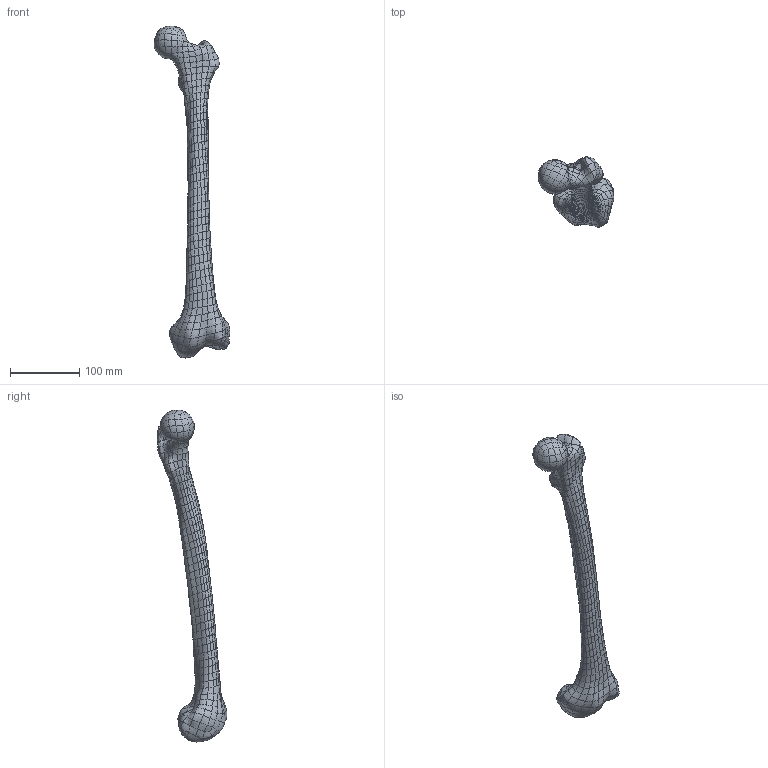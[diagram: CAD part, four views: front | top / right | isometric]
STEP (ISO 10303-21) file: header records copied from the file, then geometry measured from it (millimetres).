
FILE_DESCRIPTION(('Open CASCADE Model'),'2;1');
FILE_NAME('Open CASCADE Shape Model','2026-10-24T17:19:06',('Author'),( 'Open CASCADE'),'Open CASCADE STEP processor 7.8','Open CASCADE 7.8' ,'Unknown');
FILE_SCHEMA(('AUTOMOTIVE_DESIGN { 1 0 10303 214 1 1 1 1 }'));
Products named in the file (1): Open CASCADE STEP translator 7.8 1
Bounding box: 108.9 x 100.89 x 478.54 mm (x, y, z)
Volume: 630653.3 mm3; surface area: 69486.3 mm2
Topology: 1 solids, 1 shells, 928 faces, 1856 edges, 930 vertices
Faces by surface type: bspline 928
Entity records: 58700 total; most frequent: CARTESIAN_POINT 27629, ORIENTED_EDGE 3712, PCURVE 3712, DEFINITIONAL_REPRESENTATION 3712, DIRECTION 3000, LINE 2998, VECTOR 2998, B_SPLINE_CURVE_WITH_KNOTS 2570
